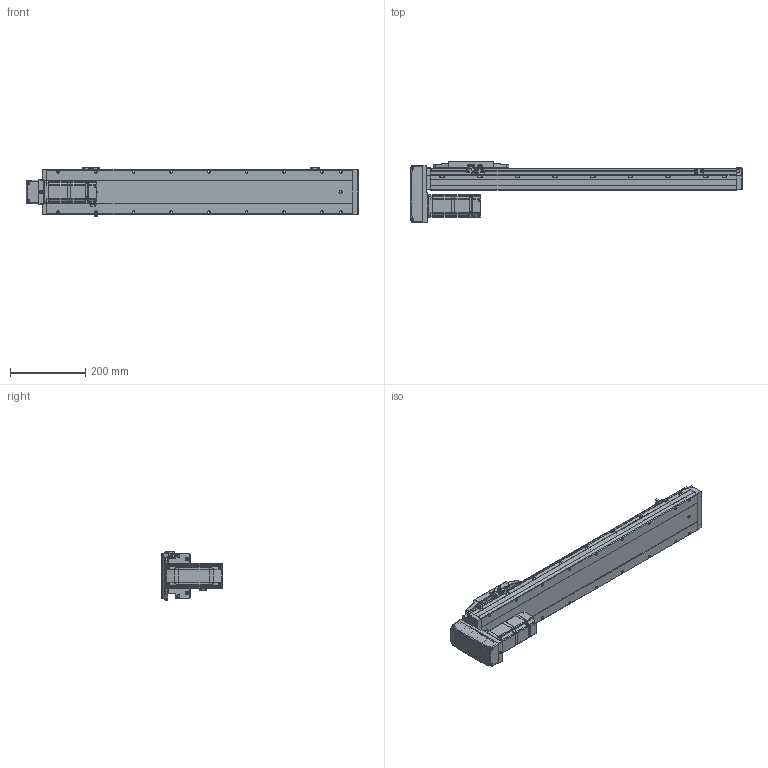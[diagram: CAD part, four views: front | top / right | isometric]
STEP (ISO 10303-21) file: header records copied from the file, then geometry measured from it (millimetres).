
FILE_DESCRIPTION (( 'STEP AP214' ), '1' );
FILE_NAME ('CTH12-L10-S600-BM-C40（简）.STEP', '2023-02-04T06:48:18', ( '' ), ( '' ), 'SwSTEP 2.0', 'SolidWorks 2018', '' );
FILE_SCHEMA (( 'AUTOMOTIVE_DESIGN' ));
Length unit declared in the file: millimetre
Products named in the file (25): CTH12; CTH12賑怢ㄗ潠ㄘ; PM-Y45; CTH12-BL_body_4; AC60_Valor predeterminado; CTH12覜茼え; 嫖萇羲壽郪磁2; CTH12-L10-S600-BM-C40（简）; BM-C40; CTH400W假蚾啣; 内六角圆柱头螺钉M3-1; CTH12_body_3; CTH400W垫板（3个厚）; 蚐郲; CTH12-BM-02; CTH12底座-L811简（600行程）; 内六角圆柱头螺钉M3-2; CTH8耜蚾蟀諉啣ㄗ潠ㄘ; CTH嫖萇羲壽假蚾啣; 湮賑怢  裔赽-1(CTH12)賑怢; 嫖萇羲壽郪磁1; CTH12賑怢郪磁; 内六角圆柱头螺钉M3; hex nuts, style 1-grades ab gb_GB_FASTENER_NUT_SNAB1 M3-N; 内六角圆柱头螺钉M5装饰螺钉
Assembly tree (45 placements, depth 4):
  CTH12-L10-S600-BM-C40（简）
    CTH12底座-L811简（600行程）
    蚐郲  x2
    CTH12_body_3
    CTH12-BL_body_4
    CTH12賑怢郪磁
      CTH12
        湮賑怢  裔赽-1(CTH12)賑怢
        CTH12賑怢ㄗ潠ㄘ
    CTH12覜茼え
    嫖萇羲壽郪磁1  x2
      CTH嫖萇羲壽假蚾啣
      PM-Y45
      内六角圆柱头螺钉M3-2
      内六角圆柱头螺钉M3-1
      hex nuts, style 1-grades ab gb_GB_FASTENER_NUT_SNAB1 M3-N
    嫖萇羲壽郪磁2
      CTH嫖萇羲壽假蚾啣
      PM-Y45
      内六角圆柱头螺钉M3-1  x2
      内六角圆柱头螺钉M3-2  x2
      hex nuts, style 1-grades ab gb_GB_FASTENER_NUT_SNAB1 M3-N  x2
    BM-C40
      CTH12-BM-02
      CTH8耜蚾蟀諉啣ㄗ潠ㄘ
    CTH400W垫板（3个厚）
    AC60_Valor predeterminado
    内六角圆柱头螺钉M3  x6
    内六角圆柱头螺钉M5装饰螺钉  x4
    CTH400W假蚾啣
Bounding box: 881.5 x 162.5 x 131.52 mm (x, y, z)
Volume: 6070805.4 mm3; surface area: 609524.4 mm2
Topology: 47 solids, 48 shells, 2796 faces, 7084 edges, 4507 vertices
Faces by surface type: plane 1502, cylinder 829, cone 303, bspline 110, torus 52
Entity records: 76929 total; most frequent: CARTESIAN_POINT 18173, ORIENTED_EDGE 11348, DIRECTION 11275, EDGE_CURVE 5674, AXIS2_PLACEMENT_3D 3835, VERTEX_POINT 3611, VECTOR 3605, LINE 3605
